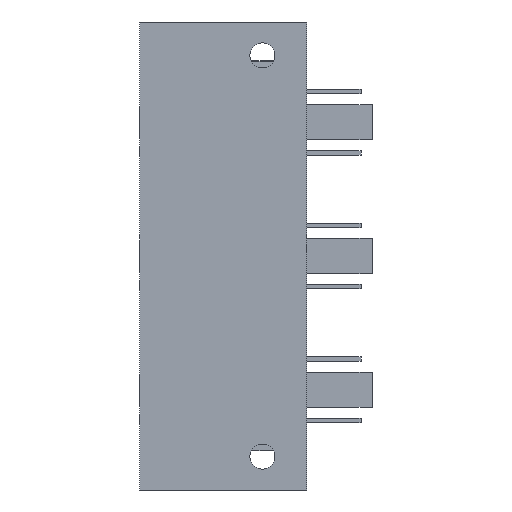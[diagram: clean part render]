
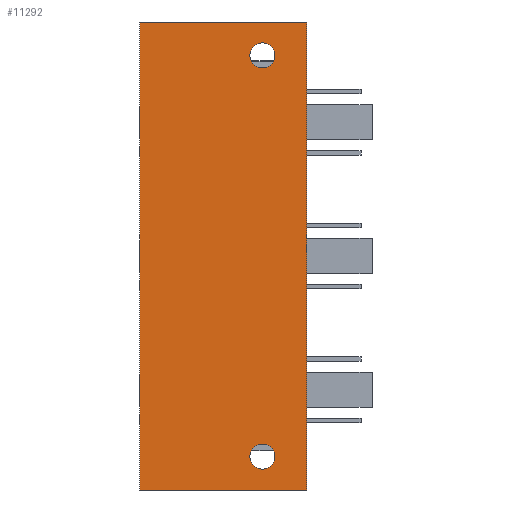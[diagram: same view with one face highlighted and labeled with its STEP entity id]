
A CAD part, left-side view. The second image highlights one B-rep face of the part: STEP entity #11292.
In plain terms, the highlighted planar face has unit normal (-1, 0, 0).
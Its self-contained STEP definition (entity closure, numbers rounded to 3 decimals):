
#1 = DIRECTION ( 'NONE',  ( 1., 0., 0. ) ) ;
#2 = DIRECTION ( 'NONE',  ( 0., 0., -1. ) ) ;
#1958 = PLANE ( 'NONE',  #15718 ) ;
#1959 = CARTESIAN_POINT ( 'NONE',  ( -10., 15., 0. ) ) ;
#1960 = DIRECTION ( 'NONE',  ( -1., 0., 0. ) ) ;
#1961 = DIRECTION ( 'NONE',  ( 0., 0.707, 0.707 ) ) ;
#2439 = FACE_BOUND ( 'NONE', #9174, .T. ) ;
#2440 = FACE_OUTER_BOUND ( 'NONE', #9196, .T. ) ;
#2449 = FACE_BOUND ( 'NONE', #9159, .T. ) ;
#7805 = VERTEX_POINT ( 'NONE', #7806 ) ;
#7806 = CARTESIAN_POINT ( 'NONE',  ( -10., -7., -80.25 ) ) ;
#7855 = VERTEX_POINT ( 'NONE', #7856 ) ;
#7856 = CARTESIAN_POINT ( 'NONE',  ( -10., -7., -8.25 ) ) ;
#8032 = VERTEX_POINT ( 'NONE', #8564 ) ;
#8038 = VERTEX_POINT ( 'NONE', #8570 ) ;
#8039 = VERTEX_POINT ( 'NONE', #8571 ) ;
#8044 = VERTEX_POINT ( 'NONE', #8576 ) ;
#8564 = CARTESIAN_POINT ( 'NONE',  ( -10., -15., 0. ) ) ;
#8570 = CARTESIAN_POINT ( 'NONE',  ( -10., 15., -84. ) ) ;
#8571 = CARTESIAN_POINT ( 'NONE',  ( -10., -15., -84. ) ) ;
#8576 = CARTESIAN_POINT ( 'NONE',  ( -10., 15., 0. ) ) ;
#9159 = EDGE_LOOP ( 'NONE', ( #12804 ) ) ;
#9174 = EDGE_LOOP ( 'NONE', ( #12803 ) ) ;
#9196 = EDGE_LOOP ( 'NONE', ( #12799, #12800, #12801, #12802 ) ) ;
#10551 = EDGE_CURVE ( 'NONE', #8038, #8039, #14408, .T. ) ;
#10573 = EDGE_CURVE ( 'NONE', #8032, #8039, #14433, .T. ) ;
#10576 = EDGE_CURVE ( 'NONE', #7805, #7805, #14439, .T. ) ;
#10635 = EDGE_CURVE ( 'NONE', #8032, #8044, #14506, .T. ) ;
#10719 = EDGE_CURVE ( 'NONE', #8044, #8038, #14589, .T. ) ;
#10761 = EDGE_CURVE ( 'NONE', #7855, #7855, #14641, .T. ) ;
#11292 = ADVANCED_FACE ( 'NONE', ( #2440, #2439, #2449 ), #1958, .T. ) ;
#12799 = ORIENTED_EDGE ( 'NONE', *, *, #10551, .T. ) ;
#12800 = ORIENTED_EDGE ( 'NONE', *, *, #10573, .F. ) ;
#12801 = ORIENTED_EDGE ( 'NONE', *, *, #10635, .T. ) ;
#12802 = ORIENTED_EDGE ( 'NONE', *, *, #10719, .T. ) ;
#12803 = ORIENTED_EDGE ( 'NONE', *, *, #10576, .T. ) ;
#12804 = ORIENTED_EDGE ( 'NONE', *, *, #10761, .T. ) ;
#13957 = CARTESIAN_POINT ( 'NONE',  ( -10., -15., -84. ) ) ;
#13958 = DIRECTION ( 'NONE',  ( 0., -1., 0. ) ) ;
#14028 = CARTESIAN_POINT ( 'NONE',  ( -10., -15., 0. ) ) ;
#14029 = DIRECTION ( 'NONE',  ( 0., 0., -1. ) ) ;
#14031 = CARTESIAN_POINT ( 'NONE',  ( -10., -7., -78. ) ) ;
#14038 = DIRECTION ( 'NONE',  ( 1., 0., 0. ) ) ;
#14039 = DIRECTION ( 'NONE',  ( 0., 0., -1. ) ) ;
#14408 = LINE ( 'NONE', #13957, #14413 ) ;
#14413 = VECTOR ( 'NONE', #13958, 1000. ) ;
#14433 = LINE ( 'NONE', #14028, #14434 ) ;
#14434 = VECTOR ( 'NONE', #14029, 1000. ) ;
#14439 = CIRCLE ( 'NONE', #15303, 2.25 ) ;
#14506 = LINE ( 'NONE', #16382, #14507 ) ;
#14507 = VECTOR ( 'NONE', #16383, 1000. ) ;
#14589 = LINE ( 'NONE', #16650, #14591 ) ;
#14591 = VECTOR ( 'NONE', #16651, 1000. ) ;
#14641 = CIRCLE ( 'NONE', #15357, 2.25 ) ;
#15303 = AXIS2_PLACEMENT_3D ( 'NONE', #14031, #14038, #14039 ) ;
#15357 = AXIS2_PLACEMENT_3D ( 'NONE', #16769, #1, #2 ) ;
#15718 = AXIS2_PLACEMENT_3D ( 'NONE', #1959, #1960, #1961 ) ;
#16382 = CARTESIAN_POINT ( 'NONE',  ( -10., -15., 0. ) ) ;
#16383 = DIRECTION ( 'NONE',  ( 0., 1., 0. ) ) ;
#16650 = CARTESIAN_POINT ( 'NONE',  ( -10., 15., 0. ) ) ;
#16651 = DIRECTION ( 'NONE',  ( 0., 0., -1. ) ) ;
#16769 = CARTESIAN_POINT ( 'NONE',  ( -10., -7., -6. ) ) ;
